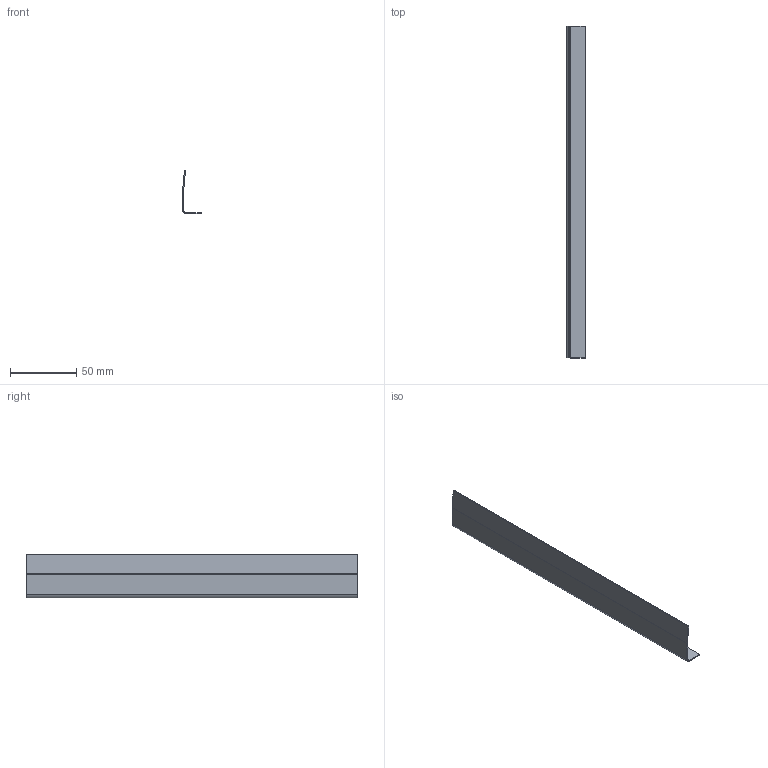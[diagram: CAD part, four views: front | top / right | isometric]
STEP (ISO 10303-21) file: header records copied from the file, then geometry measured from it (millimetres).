
FILE_DESCRIPTION(('FreeCAD Model'),'2;1');
FILE_NAME('Open CASCADE Shape Model','2024-01-17T20:51:06',(''),(''), 'Open CASCADE STEP processor 7.6','FreeCAD','Unknown');
FILE_SCHEMA(('AUTOMOTIVE_DESIGN { 1 0 10303 214 1 1 1 1 }'));
Length unit declared in the file: millimetre
Products named in the file (1): Fillet001
Bounding box: 14 x 250 x 33 mm (x, y, z)
Volume: 9038.4 mm3; surface area: 23068.3 mm2
Topology: 1 solids, 1 shells, 14 faces, 36 edges, 24 vertices
Faces by surface type: plane 10, cylinder 4
Entity records: 942 total; most frequent: CARTESIAN_POINT 195, DIRECTION 138, LINE 92, VECTOR 92, ORIENTED_EDGE 72, PCURVE 72, DEFINITIONAL_REPRESENTATION 72, EDGE_CURVE 36
